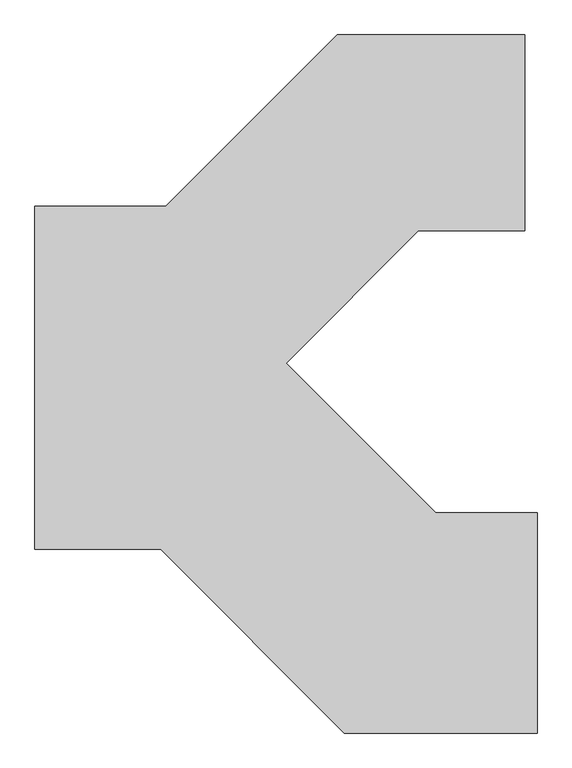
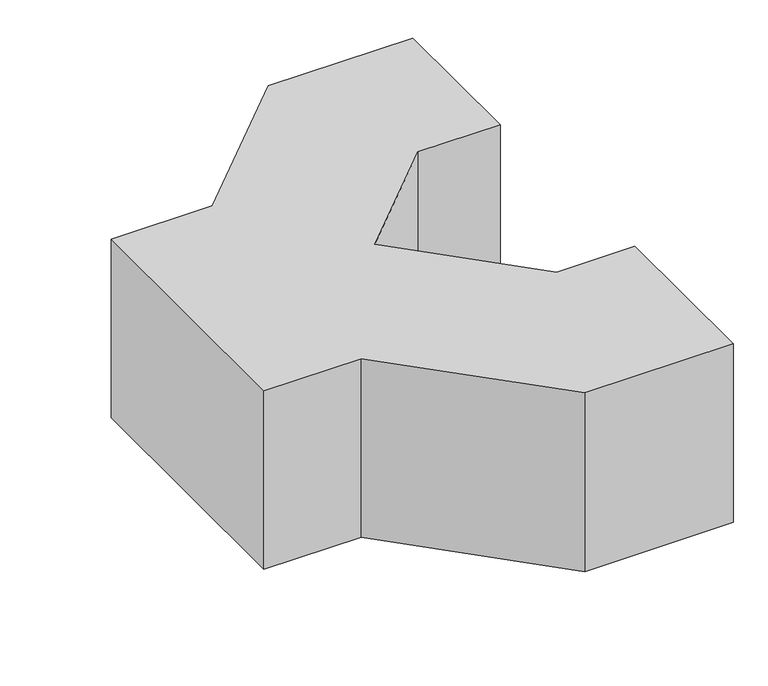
"""IFC4 building model written with IfcOpenShell, lengths in millimetres: duct fitting geometry, 2017_Pantalon_Climaver_Rectangular : Ramificación-Doble_Pantaló- Recto_Climaver."""

from ifc_helpers import new_model, si_unit, frame, origin, place, context, project, spatial, polyline, outline, extrude, source, transform, mapped, element, save


def duct_fitting_e02a0f47(model_context):
    return source(origin(), model_context, "Body", "SweptSolid", [
        extrude(outline(polyline([(1025.0, -275.0), (1025.0, -725.0), (631.8019485, -725.0), (256.8019485, -350.0), (0.0, -350.0), (0.0, 350.0), (267.1572875, 350.0), (617.1572875, 700.0), (1000.0, 700.0), (1000.0, 300.0), (782.8427125, 300.0), (513.020382, 30.1776695), (818.1980515, -275.0), (1025.0, -275.0)])), frame((0.0, 0.0, -250.0), z_axis=(0.0, 0.0, 1.0), x_axis=(1.0, 0.0, 0.0)), (0.0, 0.0, 1.0), 500.0),
    ])


if __name__ == "__main__":
    model = new_model("IFC4")
    model_context = context("Model", 3, world=origin())
    ifc_project = project(units=[si_unit("LENGTHUNIT", "METRE", prefix="MILLI")], contexts=[model_context])
    site = spatial("IfcSite", under=ifc_project)
    building = spatial("IfcBuilding", under=site)
    placement = place(None, origin())
    duct_fitting_shape = duct_fitting_e02a0f47(model_context)
    element("IfcDuctFitting", 1, ObjectType="2017_Pantalon_Climaver_Rectangular : Ramificación-Doble_Pantaló- Recto_Climaver", at=placement, inside=building, context=model_context, shape_type="MappedRepresentation", body=[
        mapped(duct_fitting_shape, transform((0.0, 0.0, 0.0), x_axis=(1.0, 0.0, 0.0), y_axis=(0.0, 1.0, 0.0), z_axis=(0.0, 0.0, 1.0))),
    ])
    save(model, "model.ifc")
